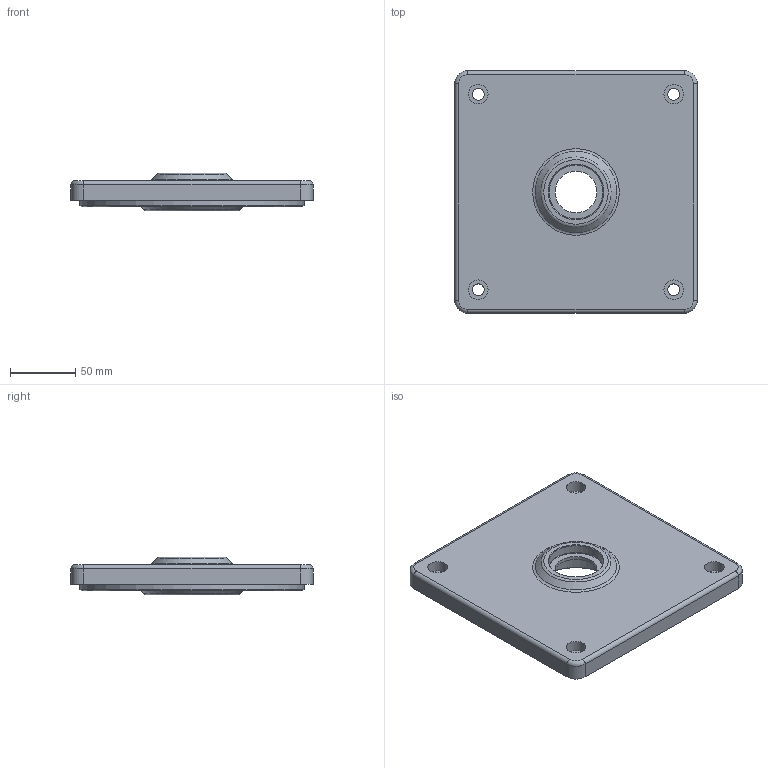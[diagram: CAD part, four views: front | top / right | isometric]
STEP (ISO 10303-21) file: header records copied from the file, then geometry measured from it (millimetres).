
FILE_DESCRIPTION(/* description */ (''),/* implementation_level */ '2;1');
FILE_NAME(/* name */ '',/* time_stamp */ '2025-05-23T15:33:46+09:00',/* author */ ('jhkim'),/* organization */ (''),/* preprocessor_version */ 'ST-DEVELOPER v20.1',/* originating_system */ 'Autodesk Inventor 2026',/* authorisation */ '');
FILE_SCHEMA (('AUTOMOTIVE_DESIGN { 1 0 10303 214 3 1 1 }'));
Length unit declared in the file: millimetre
Products named in the file (1): 웜 휠 커버
Bounding box: 186 x 186 x 29 mm (x, y, z)
Volume: 511338.7 mm3; surface area: 89053.7 mm2
Topology: 1 solids, 1 shells, 55 faces, 115 edges, 73 vertices
Faces by surface type: cylinder 21, plane 17, torus 12, cone 5
Full cylindrical faces by diameter (mm): 9 x4, 15 x4, 32 x1, 42 x1, 62 x1, 162 x1, 172 x1
Entity records: 1561 total; most frequent: DIRECTION 304, CARTESIAN_POINT 244, ORIENTED_EDGE 230, AXIS2_PLACEMENT_3D 133, EDGE_CURVE 115, CIRCLE 77, EDGE_LOOP 76, VERTEX_POINT 73
